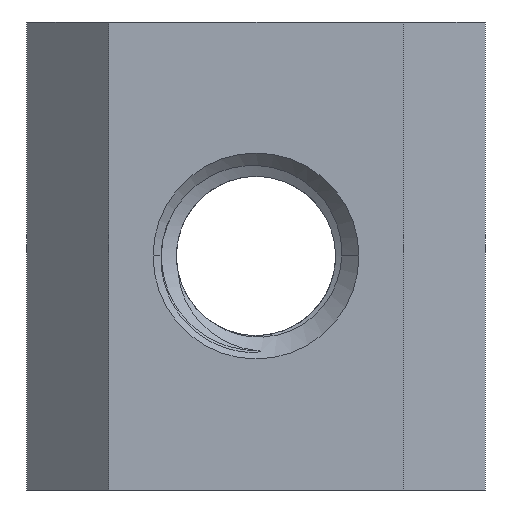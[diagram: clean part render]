
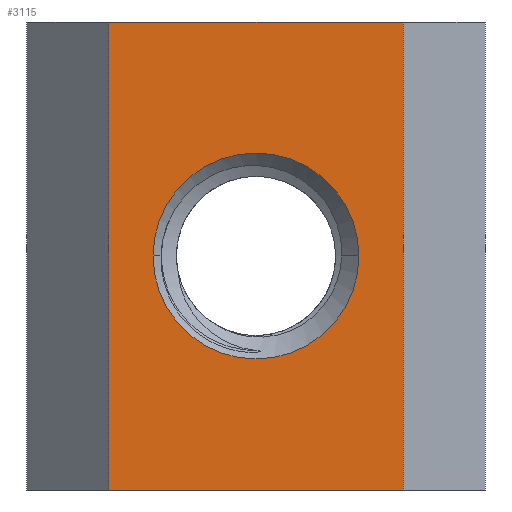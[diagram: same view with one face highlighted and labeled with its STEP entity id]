
A CAD part, front view. The second image highlights one B-rep face of the part: STEP entity #3115.
In plain terms, the highlighted planar face has unit normal (0, -1, 0).
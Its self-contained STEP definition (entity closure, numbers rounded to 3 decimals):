
#19 = VERTEX_POINT ( 'NONE', #1113 ) ;
#89 = AXIS2_PLACEMENT_3D ( 'NONE', #401, #3403, #952 ) ;
#95 = ORIENTED_EDGE ( 'NONE', *, *, #1174, .T. ) ;
#126 = ORIENTED_EDGE ( 'NONE', *, *, #244, .T. ) ;
#182 = EDGE_CURVE ( 'NONE', #594, #2355, #2578, .T. ) ;
#244 = EDGE_CURVE ( 'NONE', #1044, #1036, #271, .T. ) ;
#253 = LINE ( 'NONE', #1625, #3002 ) ;
#271 = CIRCLE ( 'NONE', #89, 4.4 ) ;
#299 = LINE ( 'NONE', #1955, #2657 ) ;
#380 = CARTESIAN_POINT ( 'NONE',  ( 6.3, 0., 10. ) ) ;
#401 = CARTESIAN_POINT ( 'NONE',  ( 0., 0., 0. ) ) ;
#457 = VERTEX_POINT ( 'NONE', #1262 ) ;
#586 = CIRCLE ( 'NONE', #3358, 4.4 ) ;
#594 = VERTEX_POINT ( 'NONE', #2743 ) ;
#649 = DIRECTION ( 'NONE',  ( 0., 0., -1. ) ) ;
#774 = DIRECTION ( 'NONE',  ( 0., 0., -1. ) ) ;
#786 = PLANE ( 'NONE',  #2419 ) ;
#845 = VECTOR ( 'NONE', #649, 1000. ) ;
#946 = EDGE_LOOP ( 'NONE', ( #3233, #2960, #1530, #95 ) ) ;
#952 = DIRECTION ( 'NONE',  ( -1., 0., 0. ) ) ;
#1029 = FACE_BOUND ( 'NONE', #1342, .T. ) ;
#1036 = VERTEX_POINT ( 'NONE', #1300 ) ;
#1044 = VERTEX_POINT ( 'NONE', #2917 ) ;
#1113 = CARTESIAN_POINT ( 'NONE',  ( -6.3, 0., -10. ) ) ;
#1174 = EDGE_CURVE ( 'NONE', #457, #19, #299, .T. ) ;
#1262 = CARTESIAN_POINT ( 'NONE',  ( -6.3, 0., 10. ) ) ;
#1296 = DIRECTION ( 'NONE',  ( 1., 0., 0. ) ) ;
#1300 = CARTESIAN_POINT ( 'NONE',  ( -4.4, 0., 0. ) ) ;
#1342 = EDGE_LOOP ( 'NONE', ( #126, #2473 ) ) ;
#1530 = ORIENTED_EDGE ( 'NONE', *, *, #1794, .F. ) ;
#1584 = DIRECTION ( 'NONE',  ( -1., 0., 0. ) ) ;
#1602 = DIRECTION ( 'NONE',  ( 0., 1., 0. ) ) ;
#1625 = CARTESIAN_POINT ( 'NONE',  ( -6.3, 0., 10. ) ) ;
#1703 = DIRECTION ( 'NONE',  ( -1., 0., 0. ) ) ;
#1710 = EDGE_CURVE ( 'NONE', #19, #2355, #2087, .T. ) ;
#1794 = EDGE_CURVE ( 'NONE', #457, #594, #253, .T. ) ;
#1838 = FACE_OUTER_BOUND ( 'NONE', #946, .T. ) ;
#1897 = CARTESIAN_POINT ( 'NONE',  ( -6.3, 0., -10. ) ) ;
#1955 = CARTESIAN_POINT ( 'NONE',  ( -6.3, 0., 10. ) ) ;
#2087 = LINE ( 'NONE', #1897, #2244 ) ;
#2244 = VECTOR ( 'NONE', #1296, 1000. ) ;
#2355 = VERTEX_POINT ( 'NONE', #2577 ) ;
#2419 = AXIS2_PLACEMENT_3D ( 'NONE', #2945, #1602, #1584 ) ;
#2450 = CARTESIAN_POINT ( 'NONE',  ( 0., 0., 0. ) ) ;
#2473 = ORIENTED_EDGE ( 'NONE', *, *, #3462, .T. ) ;
#2489 = DIRECTION ( 'NONE',  ( 0., 1., 0. ) ) ;
#2577 = CARTESIAN_POINT ( 'NONE',  ( 6.3, 0., -10. ) ) ;
#2578 = LINE ( 'NONE', #380, #845 ) ;
#2657 = VECTOR ( 'NONE', #774, 1000. ) ;
#2729 = DIRECTION ( 'NONE',  ( 1., 0., 0. ) ) ;
#2743 = CARTESIAN_POINT ( 'NONE',  ( 6.3, 0., 10. ) ) ;
#2917 = CARTESIAN_POINT ( 'NONE',  ( 4.4, 0., 0. ) ) ;
#2945 = CARTESIAN_POINT ( 'NONE',  ( -6.3, 0., 10. ) ) ;
#2960 = ORIENTED_EDGE ( 'NONE', *, *, #182, .F. ) ;
#3002 = VECTOR ( 'NONE', #2729, 1000. ) ;
#3115 = ADVANCED_FACE ( 'NONE', ( #1029, #1838 ), #786, .F. ) ;
#3233 = ORIENTED_EDGE ( 'NONE', *, *, #1710, .T. ) ;
#3358 = AXIS2_PLACEMENT_3D ( 'NONE', #2450, #2489, #1703 ) ;
#3403 = DIRECTION ( 'NONE',  ( 0., 1., 0. ) ) ;
#3462 = EDGE_CURVE ( 'NONE', #1036, #1044, #586, .T. ) ;
